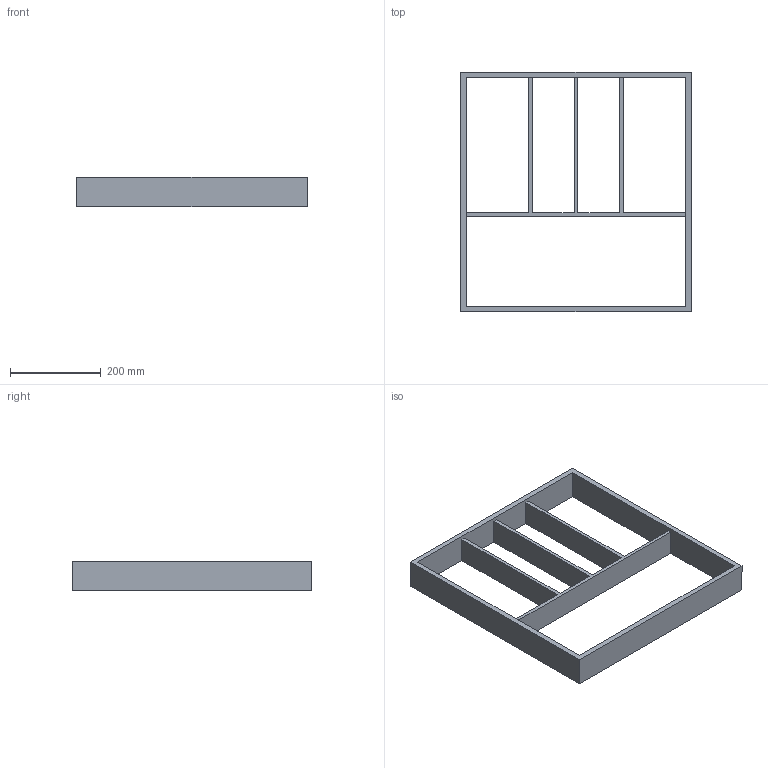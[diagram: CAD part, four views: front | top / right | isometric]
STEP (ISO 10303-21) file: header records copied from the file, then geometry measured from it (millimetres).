
FILE_DESCRIPTION (( 'STEP AP214' ), '1' );
FILE_NAME ('Vario Multi NL550_B600_16 mm_Buche.step', '2010-10-07T06:24:19', ( 'grass' ), ( '' ), 'SwSTEP 2.0', 'SolidWorks 2010', '' );
FILE_SCHEMA (( 'AUTOMOTIVE_DESIGN' ));
Length unit declared in the file: millimetre
Products named in the file (1): Vario Multi NL550_B600_16 mm_Buche
Bounding box: 508 x 529 x 65 mm (x, y, z)
Volume: 2209742.4 mm3; surface area: 487808 mm2
Topology: 1 solids, 1 shells, 22 faces, 72 edges, 48 vertices
Faces by surface type: plane 22
Entity records: 830 total; most frequent: ORIENTED_EDGE 144, CARTESIAN_POINT 143, DIRECTION 118, EDGE_CURVE 72, LINE 72, VECTOR 72, VERTEX_POINT 48, EDGE_LOOP 28
